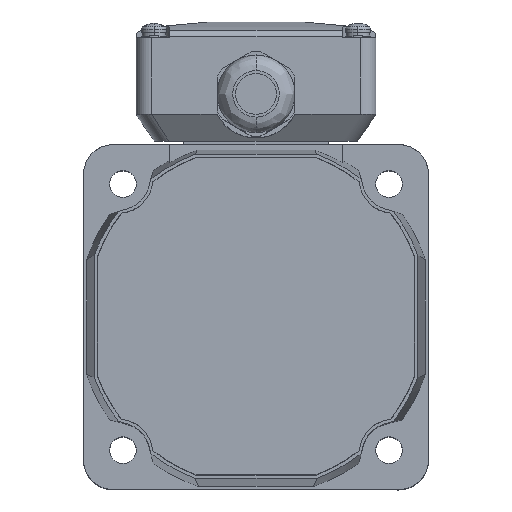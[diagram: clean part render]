
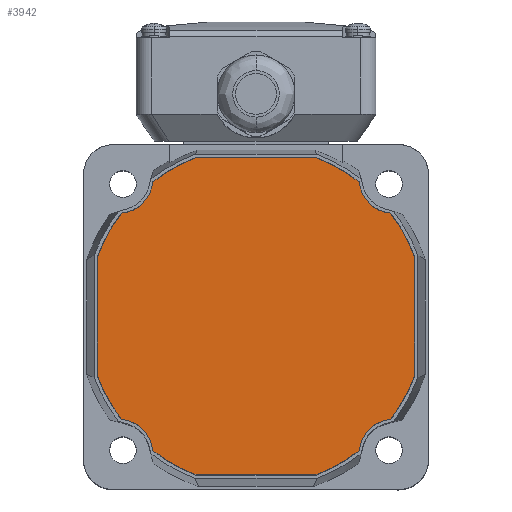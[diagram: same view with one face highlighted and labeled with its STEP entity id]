
A CAD part, top view. The second image highlights one B-rep face of the part: STEP entity #3942.
In plain terms, the highlighted planar face has unit normal (0, 0, 1).
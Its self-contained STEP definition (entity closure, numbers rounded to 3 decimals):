
#4 = CIRCLE ( 'NONE', #6763, 54. ) ;
#116 = VERTEX_POINT ( 'NONE', #5634 ) ;
#123 = ORIENTED_EDGE ( 'NONE', *, *, #5908, .T. ) ;
#227 = CARTESIAN_POINT ( 'NONE',  ( -19.125, -50.5, 157. ) ) ;
#308 = DIRECTION ( 'NONE',  ( -1., 0., 0. ) ) ;
#410 = CARTESIAN_POINT ( 'NONE',  ( 43.841, -43.841, 157. ) ) ;
#526 = VERTEX_POINT ( 'NONE', #9157 ) ;
#544 = DIRECTION ( 'NONE',  ( -1., 0., 0. ) ) ;
#552 = CARTESIAN_POINT ( 'NONE',  ( -42.83, -32.887, 157. ) ) ;
#588 = DIRECTION ( 'NONE',  ( 0., 0., 1. ) ) ;
#642 = ORIENTED_EDGE ( 'NONE', *, *, #1933, .T. ) ;
#644 = CIRCLE ( 'NONE', #4922, 11. ) ;
#718 = EDGE_CURVE ( 'NONE', #8948, #5147, #4119, .T. ) ;
#719 = EDGE_CURVE ( 'NONE', #2402, #4198, #6670, .T. ) ;
#726 = CARTESIAN_POINT ( 'NONE',  ( -50.5, 0., 157. ) ) ;
#956 = PLANE ( 'NONE',  #8229 ) ;
#1053 = CARTESIAN_POINT ( 'NONE',  ( -50.5, -19.125, 157. ) ) ;
#1079 = ORIENTED_EDGE ( 'NONE', *, *, #2571, .T. ) ;
#1132 = AXIS2_PLACEMENT_3D ( 'NONE', #2741, #5659, #9406 ) ;
#1150 = EDGE_CURVE ( 'NONE', #7295, #526, #1895, .T. ) ;
#1166 = CIRCLE ( 'NONE', #7046, 54. ) ;
#1198 = CARTESIAN_POINT ( 'NONE',  ( 0., 50.5, 157. ) ) ;
#1206 = DIRECTION ( 'NONE',  ( -1., 0., 0. ) ) ;
#1210 = ORIENTED_EDGE ( 'NONE', *, *, #6591, .T. ) ;
#1218 = CIRCLE ( 'NONE', #6486, 54. ) ;
#1263 = CARTESIAN_POINT ( 'NONE',  ( 0., 0., 157. ) ) ;
#1284 = ORIENTED_EDGE ( 'NONE', *, *, #4750, .T. ) ;
#1687 = AXIS2_PLACEMENT_3D ( 'NONE', #2634, #7165, #3397 ) ;
#1750 = CARTESIAN_POINT ( 'NONE',  ( 0., -50.5, 157. ) ) ;
#1822 = ORIENTED_EDGE ( 'NONE', *, *, #719, .T. ) ;
#1857 = CARTESIAN_POINT ( 'NONE',  ( 0., 0., 157. ) ) ;
#1892 = DIRECTION ( 'NONE',  ( 0., 0., 1. ) ) ;
#1895 = CIRCLE ( 'NONE', #4900, 54. ) ;
#1933 = EDGE_CURVE ( 'NONE', #4740, #5355, #4215, .T. ) ;
#1981 = VERTEX_POINT ( 'NONE', #8020 ) ;
#1995 = DIRECTION ( 'NONE',  ( 0., 0., -1. ) ) ;
#2026 = EDGE_LOOP ( 'NONE', ( #6700, #4877, #1822, #2515, #642, #7552, #1079, #1210, #9060, #5151, #2134, #1284, #4904, #123, #3643, #8063 ) ) ;
#2060 = CARTESIAN_POINT ( 'NONE',  ( -43.841, 43.841, 157. ) ) ;
#2115 = VERTEX_POINT ( 'NONE', #8146 ) ;
#2134 = ORIENTED_EDGE ( 'NONE', *, *, #1150, .T. ) ;
#2371 = LINE ( 'NONE', #9631, #5294 ) ;
#2402 = VERTEX_POINT ( 'NONE', #1053 ) ;
#2515 = ORIENTED_EDGE ( 'NONE', *, *, #9397, .T. ) ;
#2539 = VERTEX_POINT ( 'NONE', #2821 ) ;
#2571 = EDGE_CURVE ( 'NONE', #2539, #7145, #1166, .T. ) ;
#2634 = CARTESIAN_POINT ( 'NONE',  ( 0., 0., 157. ) ) ;
#2741 = CARTESIAN_POINT ( 'NONE',  ( 0., 0., 157. ) ) ;
#2768 = DIRECTION ( 'NONE',  ( -1., 0., 0. ) ) ;
#2821 = CARTESIAN_POINT ( 'NONE',  ( 19.125, -50.5, 157. ) ) ;
#2848 = EDGE_CURVE ( 'NONE', #3465, #1981, #6644, .T. ) ;
#2854 = DIRECTION ( 'NONE',  ( -1., 0., 0. ) ) ;
#3250 = DIRECTION ( 'NONE',  ( 0., 0., 1. ) ) ;
#3331 = DIRECTION ( 'NONE',  ( 0., 0., 1. ) ) ;
#3396 = VECTOR ( 'NONE', #9300, 1000. ) ;
#3397 = DIRECTION ( 'NONE',  ( -1., 0., 0. ) ) ;
#3465 = VERTEX_POINT ( 'NONE', #5769 ) ;
#3468 = EDGE_CURVE ( 'NONE', #8590, #8948, #1218, .T. ) ;
#3482 = CARTESIAN_POINT ( 'NONE',  ( 43.841, 43.841, 157. ) ) ;
#3643 = ORIENTED_EDGE ( 'NONE', *, *, #3468, .T. ) ;
#3936 = CARTESIAN_POINT ( 'NONE',  ( 0., 0., 157. ) ) ;
#3942 = ADVANCED_FACE ( 'NONE', ( #7151 ), #956, .T. ) ;
#4051 = LINE ( 'NONE', #726, #7756 ) ;
#4119 = CIRCLE ( 'NONE', #9615, 11. ) ;
#4180 = CARTESIAN_POINT ( 'NONE',  ( -43.841, -43.841, 157. ) ) ;
#4198 = VERTEX_POINT ( 'NONE', #552 ) ;
#4215 = CIRCLE ( 'NONE', #7528, 54. ) ;
#4303 = EDGE_CURVE ( 'NONE', #4374, #7295, #2371, .T. ) ;
#4325 = CARTESIAN_POINT ( 'NONE',  ( 0., 0., 157. ) ) ;
#4362 = CARTESIAN_POINT ( 'NONE',  ( 0., 0., 157. ) ) ;
#4374 = VERTEX_POINT ( 'NONE', #7314 ) ;
#4467 = DIRECTION ( 'NONE',  ( 0., -1., 0. ) ) ;
#4740 = VERTEX_POINT ( 'NONE', #6368 ) ;
#4750 = EDGE_CURVE ( 'NONE', #526, #3465, #6551, .T. ) ;
#4805 = LINE ( 'NONE', #1198, #3396 ) ;
#4877 = ORIENTED_EDGE ( 'NONE', *, *, #6280, .T. ) ;
#4900 = AXIS2_PLACEMENT_3D ( 'NONE', #4325, #588, #6555 ) ;
#4904 = ORIENTED_EDGE ( 'NONE', *, *, #2848, .T. ) ;
#4922 = AXIS2_PLACEMENT_3D ( 'NONE', #410, #7727, #5646 ) ;
#4975 = DIRECTION ( 'NONE',  ( 0., 0., -1. ) ) ;
#5012 = DIRECTION ( 'NONE',  ( 0., 0., 1. ) ) ;
#5027 = DIRECTION ( 'NONE',  ( 0., 0., -1. ) ) ;
#5067 = CARTESIAN_POINT ( 'NONE',  ( -32.887, 42.83, 157. ) ) ;
#5107 = EDGE_CURVE ( 'NONE', #5355, #2539, #6202, .T. ) ;
#5147 = VERTEX_POINT ( 'NONE', #6172 ) ;
#5151 = ORIENTED_EDGE ( 'NONE', *, *, #4303, .T. ) ;
#5163 = VECTOR ( 'NONE', #6957, 1000. ) ;
#5294 = VECTOR ( 'NONE', #6681, 1000. ) ;
#5355 = VERTEX_POINT ( 'NONE', #227 ) ;
#5367 = DIRECTION ( 'NONE',  ( 1., 0., 0. ) ) ;
#5592 = CARTESIAN_POINT ( 'NONE',  ( 0., 0., 157. ) ) ;
#5634 = CARTESIAN_POINT ( 'NONE',  ( -50.5, 19.125, 157. ) ) ;
#5646 = DIRECTION ( 'NONE',  ( -1., 0., 0. ) ) ;
#5659 = DIRECTION ( 'NONE',  ( 0., 0., 1. ) ) ;
#5664 = CARTESIAN_POINT ( 'NONE',  ( 32.887, -42.83, 157. ) ) ;
#5769 = CARTESIAN_POINT ( 'NONE',  ( 32.887, 42.83, 157. ) ) ;
#5908 = EDGE_CURVE ( 'NONE', #1981, #8590, #4805, .T. ) ;
#5926 = EDGE_CURVE ( 'NONE', #5147, #116, #4, .T. ) ;
#6172 = CARTESIAN_POINT ( 'NONE',  ( -42.83, 32.887, 157. ) ) ;
#6202 = LINE ( 'NONE', #1750, #5163 ) ;
#6280 = EDGE_CURVE ( 'NONE', #116, #2402, #4051, .T. ) ;
#6343 = CARTESIAN_POINT ( 'NONE',  ( 0., 0., 157. ) ) ;
#6368 = CARTESIAN_POINT ( 'NONE',  ( -32.887, -42.83, 157. ) ) ;
#6486 = AXIS2_PLACEMENT_3D ( 'NONE', #4362, #5012, #2854 ) ;
#6551 = CIRCLE ( 'NONE', #7678, 11. ) ;
#6555 = DIRECTION ( 'NONE',  ( -1., 0., 0. ) ) ;
#6591 = EDGE_CURVE ( 'NONE', #7145, #2115, #644, .T. ) ;
#6615 = AXIS2_PLACEMENT_3D ( 'NONE', #1263, #8781, #2768 ) ;
#6628 = CIRCLE ( 'NONE', #1687, 54. ) ;
#6644 = CIRCLE ( 'NONE', #6615, 54. ) ;
#6670 = CIRCLE ( 'NONE', #1132, 54. ) ;
#6681 = DIRECTION ( 'NONE',  ( 0., 1., 0. ) ) ;
#6682 = CARTESIAN_POINT ( 'NONE',  ( 50.5, 19.125, 157. ) ) ;
#6700 = ORIENTED_EDGE ( 'NONE', *, *, #5926, .T. ) ;
#6763 = AXIS2_PLACEMENT_3D ( 'NONE', #6343, #1892, #308 ) ;
#6855 = CIRCLE ( 'NONE', #7986, 11. ) ;
#6957 = DIRECTION ( 'NONE',  ( 1., 0., 0. ) ) ;
#7046 = AXIS2_PLACEMENT_3D ( 'NONE', #5592, #9378, #1206 ) ;
#7134 = CARTESIAN_POINT ( 'NONE',  ( -19.125, 50.5, 157. ) ) ;
#7145 = VERTEX_POINT ( 'NONE', #5664 ) ;
#7151 = FACE_OUTER_BOUND ( 'NONE', #2026, .T. ) ;
#7165 = DIRECTION ( 'NONE',  ( 0., 0., 1. ) ) ;
#7210 = DIRECTION ( 'NONE',  ( -1., 0., 0. ) ) ;
#7295 = VERTEX_POINT ( 'NONE', #6682 ) ;
#7314 = CARTESIAN_POINT ( 'NONE',  ( 50.5, -19.125, 157. ) ) ;
#7528 = AXIS2_PLACEMENT_3D ( 'NONE', #1857, #3331, #8522 ) ;
#7552 = ORIENTED_EDGE ( 'NONE', *, *, #5107, .T. ) ;
#7678 = AXIS2_PLACEMENT_3D ( 'NONE', #3482, #4975, #7210 ) ;
#7727 = DIRECTION ( 'NONE',  ( 0., 0., -1. ) ) ;
#7756 = VECTOR ( 'NONE', #4467, 1000. ) ;
#7986 = AXIS2_PLACEMENT_3D ( 'NONE', #4180, #1995, #544 ) ;
#8020 = CARTESIAN_POINT ( 'NONE',  ( 19.125, 50.5, 157. ) ) ;
#8063 = ORIENTED_EDGE ( 'NONE', *, *, #718, .T. ) ;
#8146 = CARTESIAN_POINT ( 'NONE',  ( 42.83, -32.887, 157. ) ) ;
#8229 = AXIS2_PLACEMENT_3D ( 'NONE', #3936, #3250, #5367 ) ;
#8522 = DIRECTION ( 'NONE',  ( -1., 0., 0. ) ) ;
#8569 = EDGE_CURVE ( 'NONE', #2115, #4374, #6628, .T. ) ;
#8590 = VERTEX_POINT ( 'NONE', #7134 ) ;
#8781 = DIRECTION ( 'NONE',  ( 0., 0., 1. ) ) ;
#8948 = VERTEX_POINT ( 'NONE', #5067 ) ;
#9060 = ORIENTED_EDGE ( 'NONE', *, *, #8569, .T. ) ;
#9157 = CARTESIAN_POINT ( 'NONE',  ( 42.83, 32.887, 157. ) ) ;
#9300 = DIRECTION ( 'NONE',  ( -1., 0., 0. ) ) ;
#9378 = DIRECTION ( 'NONE',  ( 0., 0., 1. ) ) ;
#9397 = EDGE_CURVE ( 'NONE', #4198, #4740, #6855, .T. ) ;
#9406 = DIRECTION ( 'NONE',  ( -1., 0., 0. ) ) ;
#9473 = DIRECTION ( 'NONE',  ( -1., 0., 0. ) ) ;
#9615 = AXIS2_PLACEMENT_3D ( 'NONE', #2060, #5027, #9473 ) ;
#9631 = CARTESIAN_POINT ( 'NONE',  ( 50.5, 0., 157. ) ) ;
